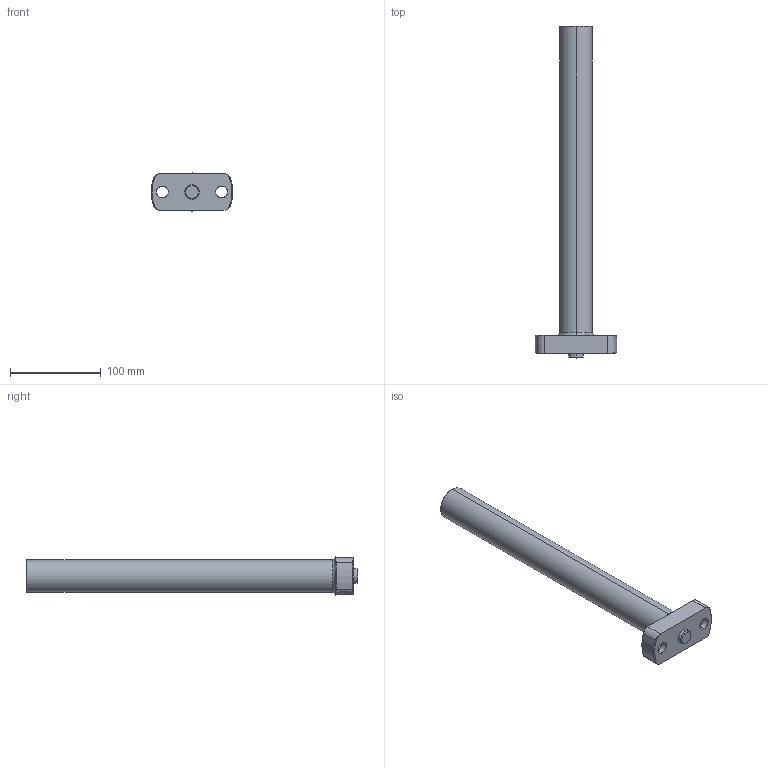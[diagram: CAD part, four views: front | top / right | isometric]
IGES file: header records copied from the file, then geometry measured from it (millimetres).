
Start section: START RECORD GO HERE.
Global section: file name: 720-036 + 360 .igs; native system: DASSAULT SYSTEMES CATIA V5 R20 - www.3ds.com; preprocessor: CATIA Version 5 Release 20 ; author: Utente; organization: NB04-ASUS; date: 20201025.135058; units: millimetre
Bounding box: 90 x 365 x 42 mm (x, y, z)
Surface area: 51784.9 mm2 (no closed solid volume)
Topology: 0 solids, 0 shells, 39 faces, 200 edges, 200 vertices
Faces by surface type: revolution 28, plane 11
